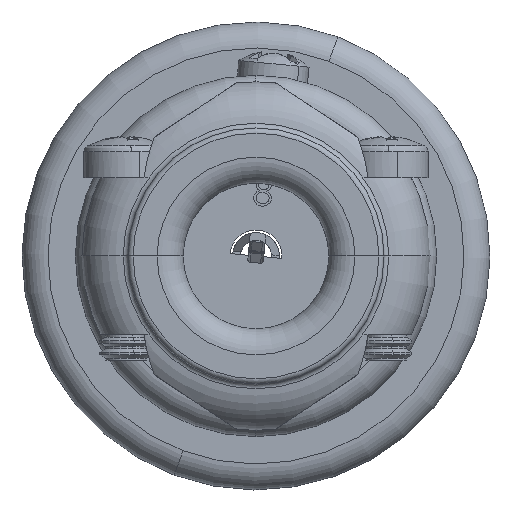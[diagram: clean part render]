
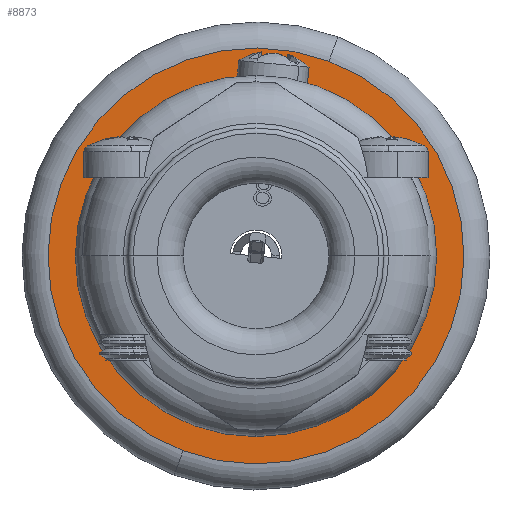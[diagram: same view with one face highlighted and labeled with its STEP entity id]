
A CAD part, left-side view. The second image highlights one B-rep face of the part: STEP entity #8873.
In plain terms, the highlighted planar face has unit normal (-1, 0, 0).
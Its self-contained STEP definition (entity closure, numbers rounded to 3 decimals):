
#1119 = CARTESIAN_POINT ( 'NONE',  ( 9.552, -1.248, 39.3 ) ) ;
#1176 = CIRCLE ( 'NONE', #52505, 8. ) ;
#3810 = DIRECTION ( 'NONE',  ( -1., 0., 0. ) ) ;
#5196 = ORIENTED_EDGE ( 'NONE', *, *, #57040, .T. ) ;
#5617 = DIRECTION ( 'NONE',  ( 0., -0.35, 0.937 ) ) ;
#6990 = FACE_OUTER_BOUND ( 'NONE', #27186, .T. ) ;
#7235 = CIRCLE ( 'NONE', #59360, 6.625 ) ;
#8873 = ADVANCED_FACE ( 'NONE', ( #6990, #36813 ), #27238, .F. ) ;
#13077 = CARTESIAN_POINT ( 'NONE',  ( 9.552, -1.248, 39.3 ) ) ;
#14557 = DIRECTION ( 'NONE',  ( 0., 0.35, -0.937 ) ) ;
#15463 = CARTESIAN_POINT ( 'NONE',  ( 9.552, -3.569, 45.505 ) ) ;
#19974 = CIRCLE ( 'NONE', #55921, 6.625 ) ;
#20371 = CARTESIAN_POINT ( 'NONE',  ( 9.552, -1.248, 39.3 ) ) ;
#21792 = CARTESIAN_POINT ( 'NONE',  ( 9.552, -1.248, 39.3 ) ) ;
#23736 = AXIS2_PLACEMENT_3D ( 'NONE', #13077, #24588, #14557 ) ;
#23828 = EDGE_CURVE ( 'NONE', #40226, #38803, #7235, .T. ) ;
#24588 = DIRECTION ( 'NONE',  ( -1., 0., 0. ) ) ;
#25142 = CARTESIAN_POINT ( 'NONE',  ( 9.552, 1.555, 31.807 ) ) ;
#26474 = ORIENTED_EDGE ( 'NONE', *, *, #55142, .T. ) ;
#27186 = EDGE_LOOP ( 'NONE', ( #5196, #26474 ) ) ;
#27238 = PLANE ( 'NONE',  #63000 ) ;
#32042 = DIRECTION ( 'NONE',  ( 0., -0.35, 0.937 ) ) ;
#32994 = EDGE_CURVE ( 'NONE', #38803, #40226, #19974, .T. ) ;
#34406 = CARTESIAN_POINT ( 'NONE',  ( 9.552, 1.074, 33.095 ) ) ;
#36813 = FACE_BOUND ( 'NONE', #41174, .T. ) ;
#38397 = CARTESIAN_POINT ( 'NONE',  ( 9.552, -1.248, 39.3 ) ) ;
#38803 = VERTEX_POINT ( 'NONE', #15463 ) ;
#40226 = VERTEX_POINT ( 'NONE', #34406 ) ;
#41174 = EDGE_LOOP ( 'NONE', ( #42634, #52846 ) ) ;
#42166 = CARTESIAN_POINT ( 'NONE',  ( 9.552, -4.051, 46.793 ) ) ;
#42634 = ORIENTED_EDGE ( 'NONE', *, *, #32994, .F. ) ;
#46232 = CIRCLE ( 'NONE', #23736, 8. ) ;
#52505 = AXIS2_PLACEMENT_3D ( 'NONE', #1119, #59544, #54777 ) ;
#52563 = DIRECTION ( 'NONE',  ( 0., 0.35, -0.937 ) ) ;
#52846 = ORIENTED_EDGE ( 'NONE', *, *, #23828, .F. ) ;
#52921 = VERTEX_POINT ( 'NONE', #42166 ) ;
#53158 = VERTEX_POINT ( 'NONE', #25142 ) ;
#54777 = DIRECTION ( 'NONE',  ( 0., 0.35, -0.937 ) ) ;
#55142 = EDGE_CURVE ( 'NONE', #52921, #53158, #46232, .T. ) ;
#55921 = AXIS2_PLACEMENT_3D ( 'NONE', #20371, #3810, #5617 ) ;
#56470 = DIRECTION ( 'NONE',  ( -1., 0., 0. ) ) ;
#57040 = EDGE_CURVE ( 'NONE', #53158, #52921, #1176, .T. ) ;
#59360 = AXIS2_PLACEMENT_3D ( 'NONE', #21792, #56470, #32042 ) ;
#59544 = DIRECTION ( 'NONE',  ( -1., 0., 0. ) ) ;
#62505 = DIRECTION ( 'NONE',  ( 1., 0., 0. ) ) ;
#63000 = AXIS2_PLACEMENT_3D ( 'NONE', #38397, #62505, #52563 ) ;
